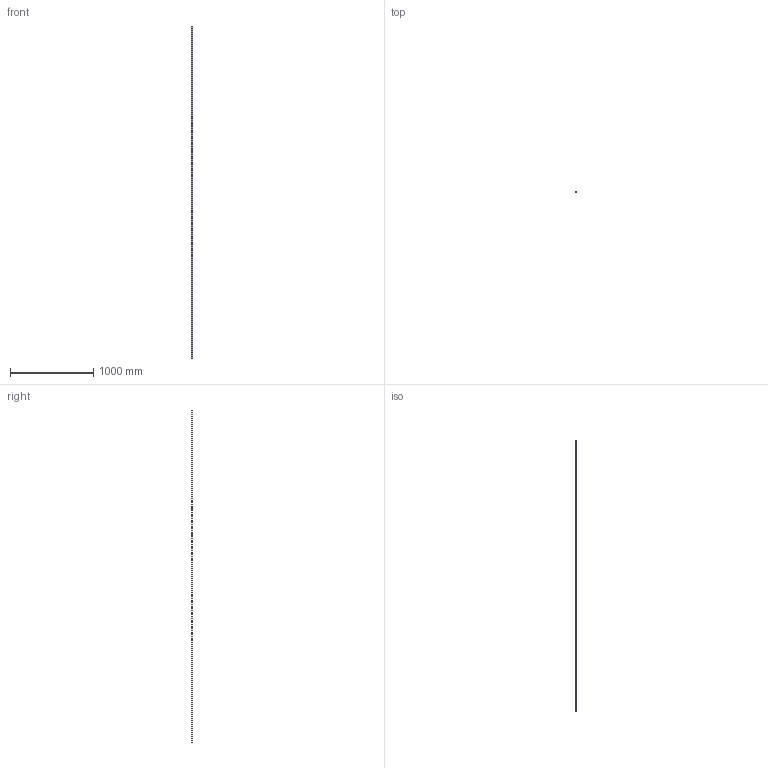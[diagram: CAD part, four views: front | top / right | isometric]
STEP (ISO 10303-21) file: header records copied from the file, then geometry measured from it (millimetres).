
FILE_DESCRIPTION (( 'STEP AP214' ), '1' );
FILE_NAME ('Penn Elcom-EG-0300.STEP', '2019-02-22T13:12:54', ( '' ), ( '' ), 'SwSTEP 2.0', 'SolidWorks 2019', '' );
FILE_SCHEMA (( 'AUTOMOTIVE_DESIGN' ));
Length unit declared in the file: millimetre
Products named in the file (1): Penn Elcom-EG-0300
Bounding box: 19 x 9.8 x 4000 mm (x, y, z)
Volume: 269899.7 mm3; surface area: 352441 mm2
Topology: 1 solids, 1 shells, 58 faces, 168 edges, 112 vertices
Faces by surface type: plane 47, cylinder 11
Entity records: 1928 total; most frequent: CARTESIAN_POINT 339, ORIENTED_EDGE 336, DIRECTION 308, EDGE_CURVE 168, LINE 146, VECTOR 146, VERTEX_POINT 112, AXIS2_PLACEMENT_3D 81
